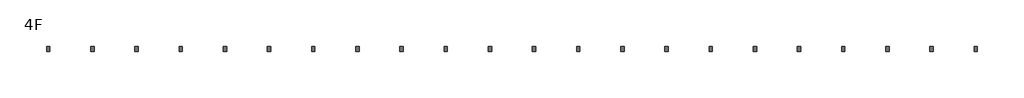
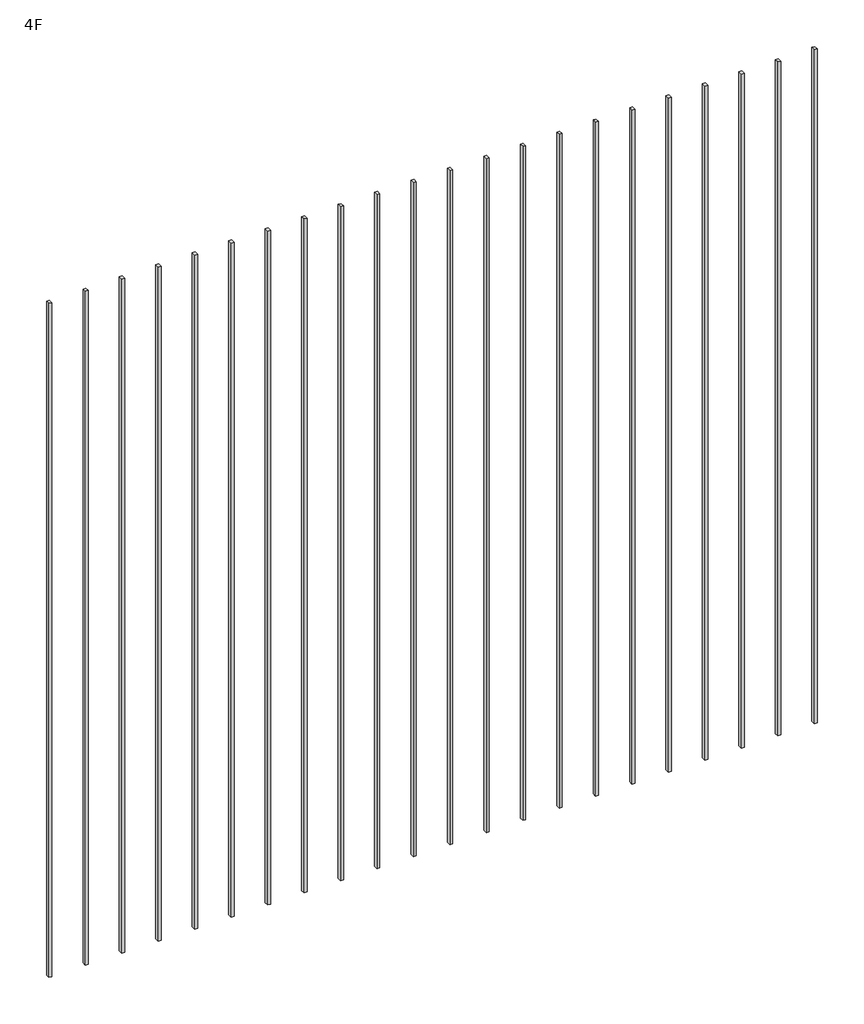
# One storey, incomplete: 1 railing.
"""IFC4 building model written with IfcOpenShell, lengths in millimetres."""

from ifc_helpers import new_model, si_unit, origin, place, context, project, spatial, transform, mapped, element, save
from components import railing_2e298e7e

model = new_model("IFC4")

# Units and contexts
model_context = context("Model", 3, world=origin())
ifc_project = project(units=[si_unit("LENGTHUNIT", "METRE", prefix="MILLI")], contexts=[model_context])

# Site, building, storey
site = spatial("IfcSite", under=ifc_project)
building = spatial("IfcBuilding", under=site)
storey = spatial("IfcBuildingStorey", under=building, Name="4F", Elevation=12700.0)

# Railing
placement = place(None, origin())
railing_shape = railing_2e298e7e(model_context)
element("IfcRailing", 1, ObjectType="南右隔柵1 : 南右隔柵", at=placement, inside=storey, context=model_context, shape_type="MappedRepresentation", body=[
    mapped(railing_shape, transform((0.0, 0.0, 0.0), x_axis=(1.0, 0.0, 0.0), y_axis=(0.0, 1.0, 0.0), z_axis=(0.0, 0.0, 1.0))),
])

save(model, "model.ifc")
